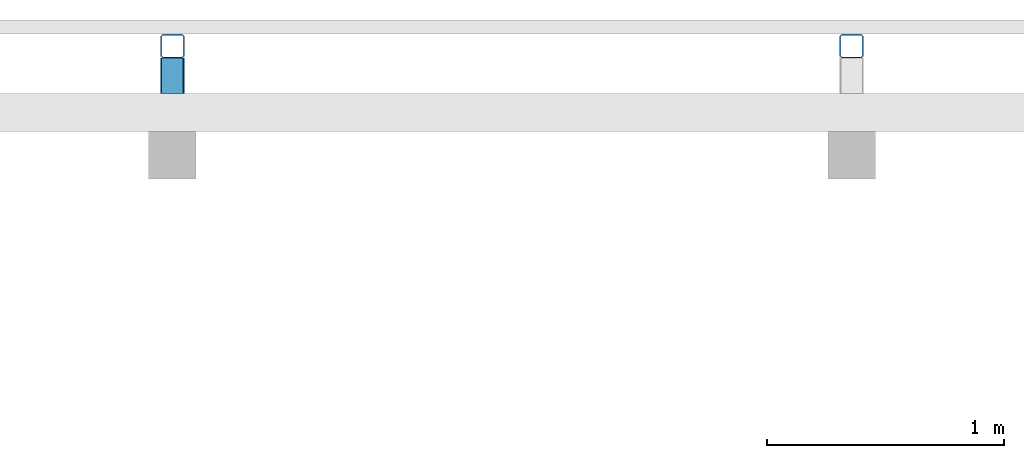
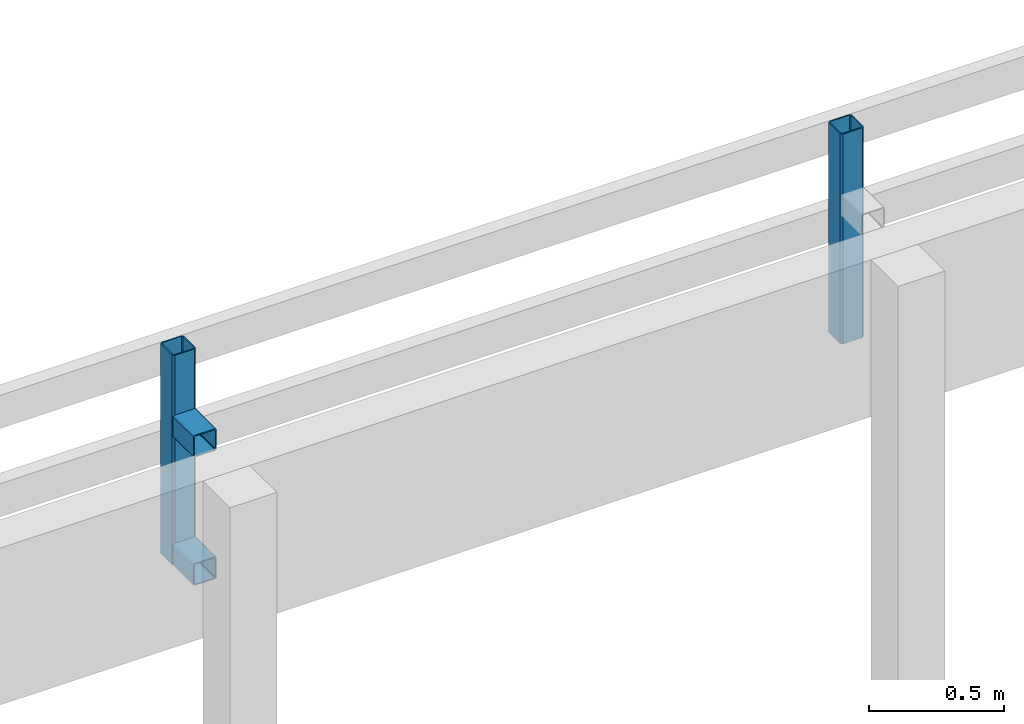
# One storey, part 28 of 42: 4 members.
"""IFC4 building model written with IfcOpenShell, lengths in metres."""

from ifc_helpers import new_model, entity, si_unit, converted_unit, derived_unit, frame, origin, place, context, subcontext, project, spatial, faceted_brep, material, element, save


model = new_model("IFC4")

# Units and contexts
model_context = context("Model", 3, precision=1e-05, world=origin())
plan_context = context("Plan", 2, precision=1e-05, world=origin())
body_context = subcontext(model_context, "Body", "Model", "MODEL_VIEW")
ifc_project = project(units=[si_unit("LENGTHUNIT", "METRE"), si_unit("AREAUNIT", "SQUARE_METRE"), si_unit("VOLUMEUNIT", "CUBIC_METRE"), si_unit("MASSUNIT", "GRAM", prefix="KILO"), converted_unit("PLANEANGLEUNIT", "DEGREE", entity("IfcPlaneAngleMeasure", 0.0174532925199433), si_unit("PLANEANGLEUNIT", "RADIAN"), dimensions=[0, 0, 0, 0, 0, 0, 0]), derived_unit("THERMALTRANSMITTANCEUNIT", [(si_unit("POWERUNIT", "WATT"), 1), (si_unit("THERMODYNAMICTEMPERATUREUNIT", "KELVIN"), -1), (si_unit("LENGTHUNIT", "METRE"), -2)]), derived_unit("VOLUMETRICFLOWRATEUNIT", [(si_unit("LENGTHUNIT", "METRE"), 3), (converted_unit("TIMEUNIT", "hour", entity("IfcTimeMeasure", 3600.0), si_unit("TIMEUNIT", "SECOND"), dimensions=[0, 0, 1, 0, 0, 0, 0]), -1), (si_unit("LENGTHUNIT", "METRE"), -1)])], contexts=[model_context, plan_context])

# Site, building, storey
site_placement = place(None, origin())
site = spatial("IfcSite", under=ifc_project, at=site_placement, Name="Site", CompositionType="ELEMENT")
building_placement = place(site_placement, origin())
building = spatial("IfcBuilding", under=site, at=building_placement, Name="Admin", CompositionType="ELEMENT")
storey_placement = place(building_placement, frame((0.0, 0.0, 6.61)))
storey = spatial("IfcBuildingStorey", under=building, at=storey_placement, Name="02-Etage2", CompositionType="ELEMENT", Elevation=6.61)

# Members
ifc_material_1 = material(Name="S235")
member_1_placement = place(storey_placement, frame((41.0598005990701, 22.4994493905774, 2.28)))
element("IfcMember", 1, at=member_1_placement, inside=storey, material=ifc_material_1, Name="Bandeau R+2", context=body_context, shape_type="Brep", body=[
    faceted_brep([(0.09, 0.005, 0.0), (0.09, 0.005, 0.95), (0.01, 0.005, 0.95), (0.01, 0.005, 0.0), (0.095, 0.01, 0.0), (0.095, 0.01, 0.95), (0.095, 0.09, 0.0), (0.095, 0.09, 0.95), (0.09, 0.095, 0.0), (0.09, 0.095, 0.95), (0.01, 0.095, 0.0), (0.01, 0.095, 0.95), (0.005, 0.09, 0.0), (0.005, 0.09, 0.95), (0.005, 0.01, 0.0), (0.005, 0.01, 0.95), (0.0, 0.0075, 0.0), (0.0, 0.0075, 0.95), (0.0075, 0.0, 0.95), (0.0075, 0.0, 0.0), (0.0, 0.0925, 0.0), (0.0, 0.0925, 0.95), (0.0075, 0.1, 0.0), (0.0075, 0.1, 0.95), (0.0925, 0.1, 0.0), (0.0925, 0.1, 0.95), (0.1, 0.0925, 0.0), (0.1, 0.0925, 0.95), (0.1, 0.0075, 0.0), (0.1, 0.0075, 0.95), (0.0925, 0.0, 0.0), (0.0925, 0.0, 0.95)], [[[0, 1, 2, 3]], [[4, 5, 1, 0]], [[6, 7, 5, 4]], [[8, 9, 7, 6]], [[10, 11, 9, 8]], [[12, 13, 11, 10]], [[14, 15, 13, 12]], [[3, 2, 15, 14]], [[16, 17, 18, 19]], [[20, 21, 17, 16]], [[22, 23, 21, 20]], [[24, 25, 23, 22]], [[26, 27, 25, 24]], [[28, 29, 27, 26]], [[30, 31, 29, 28]], [[19, 18, 31, 30]], [[18, 17, 21, 23, 25, 27, 29, 31], [2, 1, 5, 7, 9, 11, 13, 15]], [[19, 30, 28, 26, 24, 22, 20, 16], [3, 14, 12, 10, 8, 6, 4, 0]]], orient=[[False], [False], [False], [False], [False], [False], [False], [False], [False], [False], [False], [False], [False], [False], [False], [False], [False, False], [False, False]]),
])
ifc_material_2 = material(Name="S235")
member_2_placement = place(storey_placement, frame((43.9198005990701, 22.4994493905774, 2.28)))
element("IfcMember", 2, at=member_2_placement, inside=storey, material=ifc_material_2, Name="Bandeau R+2", context=body_context, shape_type="Brep", body=[
    faceted_brep([(0.09, 0.005, 0.0), (0.09, 0.005, 0.95), (0.01, 0.005, 0.95), (0.01, 0.005, 0.0), (0.095, 0.01, 0.0), (0.095, 0.01, 0.95), (0.095, 0.09, 0.0), (0.095, 0.09, 0.95), (0.09, 0.095, 0.0), (0.09, 0.095, 0.95), (0.01, 0.095, 0.0), (0.01, 0.095, 0.95), (0.005, 0.09, 0.0), (0.005, 0.09, 0.95), (0.005, 0.01, 0.0), (0.005, 0.01, 0.95), (0.0, 0.0075, 0.0), (0.0, 0.0075, 0.95), (0.0075, 0.0, 0.95), (0.0075, 0.0, 0.0), (0.0, 0.0925, 0.0), (0.0, 0.0925, 0.95), (0.0075, 0.1, 0.0), (0.0075, 0.1, 0.95), (0.0925, 0.1, 0.0), (0.0925, 0.1, 0.95), (0.1, 0.0925, 0.0), (0.1, 0.0925, 0.95), (0.1, 0.0075, 0.0), (0.1, 0.0075, 0.95), (0.0925, 0.0, 0.0), (0.0925, 0.0, 0.95)], [[[0, 1, 2, 3]], [[4, 5, 1, 0]], [[6, 7, 5, 4]], [[8, 9, 7, 6]], [[10, 11, 9, 8]], [[12, 13, 11, 10]], [[14, 15, 13, 12]], [[3, 2, 15, 14]], [[16, 17, 18, 19]], [[20, 21, 17, 16]], [[22, 23, 21, 20]], [[24, 25, 23, 22]], [[26, 27, 25, 24]], [[28, 29, 27, 26]], [[30, 31, 29, 28]], [[19, 18, 31, 30]], [[18, 17, 21, 23, 25, 27, 29, 31], [2, 1, 5, 7, 9, 11, 13, 15]], [[19, 30, 28, 26, 24, 22, 20, 16], [3, 14, 12, 10, 8, 6, 4, 0]]], orient=[[False], [False], [False], [False], [False], [False], [False], [False], [False], [False], [False], [False], [False], [False], [False], [False], [False, False], [False, False]]),
])
ifc_material_3 = material(Name="S235")
member_3_placement = place(storey_placement, frame((41.0598005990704, 22.3494493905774, 2.28)))
element("IfcMember", 3, at=member_3_placement, inside=storey, material=ifc_material_3, Name="Bandeau R+2", context=body_context, shape_type="Brep", body=[
    faceted_brep([(0.00500000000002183, 0.15, 0.09), (0.00500000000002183, 0.15, 0.01), (0.005, 1.81898940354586e-14, 0.01), (0.005, 1.81898940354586e-14, 0.09), (0.0050759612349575, 0.15, 0.0908682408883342), (0.00507596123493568, 1.81898940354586e-14, 0.0908682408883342), (0.00530153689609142, 0.15, 0.0917101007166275), (0.00530153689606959, 1.81898940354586e-14, 0.0917101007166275), (0.00566987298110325, 0.15, 0.0925), (0.00566987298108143, 1.81898940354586e-14, 0.0925), (0.00616977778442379, 0.15, 0.0932139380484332), (0.00616977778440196, 1.81898940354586e-14, 0.0932139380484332), (0.00678606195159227, 0.15, 0.0938302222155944), (0.00678606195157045, 1.81898940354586e-14, 0.0938302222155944), (0.00750000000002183, 0.15, 0.0943301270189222), (0.0075, 1.81898940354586e-14, 0.0943301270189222), (0.00828989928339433, 0.15, 0.0946984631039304), (0.00828989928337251, 1.81898940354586e-14, 0.0946984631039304), (0.00913175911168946, 0.15, 0.0949240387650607), (0.00913175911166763, 1.81898940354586e-14, 0.0949240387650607), (0.0100000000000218, 0.15, 0.095), (0.01, 1.81898940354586e-14, 0.095), (0.0900000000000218, 0.149999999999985, 0.095), (0.09, 3.63797880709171e-15, 0.095), (0.0908682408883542, 0.149999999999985, 0.0949240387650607), (0.0908682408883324, 3.63797880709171e-15, 0.0949240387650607), (0.0917101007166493, 0.149999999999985, 0.0946984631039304), (0.0917101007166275, 3.63797880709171e-15, 0.0946984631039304), (0.0925000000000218, 0.149999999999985, 0.0943301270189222), (0.0925, 3.63797880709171e-15, 0.0943301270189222), (0.0932139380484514, 0.149999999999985, 0.0938302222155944), (0.0932139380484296, 3.63797880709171e-15, 0.0938302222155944), (0.0938302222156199, 0.149999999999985, 0.0932139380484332), (0.093830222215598, 3.63797880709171e-15, 0.0932139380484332), (0.0943301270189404, 0.149999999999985, 0.0925), (0.0943301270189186, 3.63797880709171e-15, 0.0925), (0.0946984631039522, 0.149999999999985, 0.0917101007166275), (0.0946984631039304, 3.63797880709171e-15, 0.0917101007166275), (0.0949240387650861, 0.149999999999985, 0.0908682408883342), (0.0949240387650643, 3.63797880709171e-15, 0.0908682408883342), (0.0950000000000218, 0.149999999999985, 0.09), (0.095, 3.63797880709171e-15, 0.09), (0.0950000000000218, 0.149999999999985, 0.01), (0.095, 3.63797880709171e-15, 0.01), (0.0949240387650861, 0.149999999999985, 0.00913175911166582), (0.0949240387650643, 3.63797880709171e-15, 0.00913175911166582), (0.0946984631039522, 0.149999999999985, 0.00828989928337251), (0.0946984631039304, 3.63797880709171e-15, 0.00828989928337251), (0.0943301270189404, 0.149999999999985, 0.0075), (0.0943301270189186, 3.63797880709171e-15, 0.0075), (0.0938302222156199, 0.149999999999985, 0.00678606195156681), (0.093830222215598, 3.63797880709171e-15, 0.00678606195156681), (0.0932139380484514, 0.149999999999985, 0.0061697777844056), (0.0932139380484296, 3.63797880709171e-15, 0.0061697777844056), (0.0925000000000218, 0.149999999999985, 0.00566987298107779), (0.0925, 3.63797880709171e-15, 0.00566987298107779), (0.0917101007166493, 0.149999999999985, 0.00530153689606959), (0.0917101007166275, 3.63797880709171e-15, 0.00530153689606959), (0.0908682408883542, 0.149999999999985, 0.00507596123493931), (0.0908682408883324, 3.63797880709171e-15, 0.00507596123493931), (0.0900000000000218, 0.149999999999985, 0.005), (0.09, 3.63797880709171e-15, 0.005), (0.0100000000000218, 0.15, 0.005), (0.01, 1.81898940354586e-14, 0.005), (0.00913175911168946, 0.15, 0.00507596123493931), (0.00913175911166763, 1.81898940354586e-14, 0.00507596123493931), (0.00828989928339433, 0.15, 0.00530153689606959), (0.00828989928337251, 1.81898940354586e-14, 0.00530153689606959), (0.00750000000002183, 0.15, 0.00566987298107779), (0.0075, 1.81898940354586e-14, 0.00566987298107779), (0.00678606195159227, 0.15, 0.0061697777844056), (0.00678606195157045, 1.81898940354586e-14, 0.0061697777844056), (0.00616977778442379, 0.15, 0.00678606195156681), (0.00616977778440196, 1.81898940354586e-14, 0.00678606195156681), (0.00566987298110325, 0.15, 0.0075), (0.00566987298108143, 1.81898940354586e-14, 0.0075), (0.00530153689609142, 0.15, 0.00828989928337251), (0.00530153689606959, 1.81898940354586e-14, 0.00828989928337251), (0.0050759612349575, 0.15, 0.00913175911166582), (0.00507596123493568, 1.81898940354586e-14, 0.00913175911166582), (0.0925000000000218, 0.149999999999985, 0.1), (0.0938023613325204, 0.149999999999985, 0.099886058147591), (0.0938023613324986, 3.63797880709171e-15, 0.099886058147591), (0.0925, 3.63797880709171e-15, 0.1), (0.00750000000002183, 0.15, 0.1), (0.0075, 1.81898940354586e-14, 0.1), (0.00619763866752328, 0.15, 0.099886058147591), (0.00619763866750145, 1.81898940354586e-14, 0.099886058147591), (0.00493484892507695, 0.15, 0.0995476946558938), (0.00493484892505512, 1.81898940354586e-14, 0.0995476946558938), (0.00375000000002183, 0.15, 0.0989951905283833), (0.00375, 1.81898940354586e-14, 0.0989951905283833), (0.00267909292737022, 0.15, 0.0982453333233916), (0.00267909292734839, 1.81898940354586e-14, 0.0982453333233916), (0.0017546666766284, 0.15, 0.0973209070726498), (0.00175466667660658, 1.81898940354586e-14, 0.0973209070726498), (0.00100480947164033, 0.15, 0.09625), (0.0010048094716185, 1.81898940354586e-14, 0.09625), (0.000452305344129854, 0.15, 0.0950651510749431), (0.000452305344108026, 1.81898940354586e-14, 0.0950651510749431), (0.000113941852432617, 0.15, 0.0938023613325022), (0.00011394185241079, 1.81898940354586e-14, 0.0938023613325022), (1.45519152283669e-14, 0.15, 0.0925), (0.0, 1.81898940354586e-14, 0.0925), (0.000113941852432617, 0.15, 0.00619763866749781), (2.18278728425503e-14, 0.15, 0.0075), (0.0, 1.81898940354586e-14, 0.0075), (0.00011394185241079, 1.81898940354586e-14, 0.00619763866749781), (0.000452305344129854, 0.15, 0.00493484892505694), (0.000452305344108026, 1.81898940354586e-14, 0.00493484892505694), (0.00100480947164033, 0.15, 0.00375), (0.0010048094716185, 1.81898940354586e-14, 0.00375), (0.0017546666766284, 0.15, 0.00267909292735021), (0.00175466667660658, 1.81898940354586e-14, 0.00267909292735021), (0.00267909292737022, 0.15, 0.00175466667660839), (0.00267909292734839, 1.81898940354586e-14, 0.00175466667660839), (0.00375000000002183, 0.15, 0.00100480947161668), (0.00375, 1.81898940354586e-14, 0.00100480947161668), (0.00493484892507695, 0.15, 0.000452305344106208), (0.00493484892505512, 1.81898940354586e-14, 0.000452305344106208), (0.00619763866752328, 0.15, 0.000113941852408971), (0.00619763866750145, 1.81898940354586e-14, 0.000113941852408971), (0.00750000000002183, 0.15, 0.0), (0.0075, 1.81898940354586e-14, 0.0), (0.0925000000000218, 0.149999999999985, 0.0), (0.0925, 3.63797880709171e-15, 0.0), (0.0938023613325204, 0.149999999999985, 0.000113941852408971), (0.0938023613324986, 3.63797880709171e-15, 0.000113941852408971), (0.0950651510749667, 0.149999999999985, 0.000452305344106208), (0.0950651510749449, 3.63797880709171e-15, 0.000452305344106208), (0.0962500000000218, 0.149999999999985, 0.00100480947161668), (0.09625, 3.63797880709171e-15, 0.00100480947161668), (0.0973209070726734, 0.149999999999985, 0.00175466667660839), (0.0973209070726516, 3.63797880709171e-15, 0.00175466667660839), (0.0982453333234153, 0.149999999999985, 0.00267909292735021), (0.0982453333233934, 3.63797880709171e-15, 0.00267909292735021), (0.0989951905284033, 0.149999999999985, 0.00375), (0.0989951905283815, 3.63797880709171e-15, 0.00375), (0.0995476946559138, 0.149999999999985, 0.00493484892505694), (0.099547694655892, 3.63797880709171e-15, 0.00493484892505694), (0.099886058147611, 0.149999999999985, 0.00619763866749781), (0.0998860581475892, 3.63797880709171e-15, 0.00619763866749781), (0.100000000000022, 0.15, 0.0075), (0.1, 3.63797880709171e-15, 0.0075), (0.099886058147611, 0.149999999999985, 0.0938023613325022), (0.100000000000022, 0.15, 0.0925), (0.1, 3.63797880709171e-15, 0.0925), (0.0998860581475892, 3.63797880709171e-15, 0.0938023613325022), (0.0995476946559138, 0.149999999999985, 0.0950651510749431), (0.099547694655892, 3.63797880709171e-15, 0.0950651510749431), (0.0989951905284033, 0.149999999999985, 0.09625), (0.0989951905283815, 3.63797880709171e-15, 0.09625), (0.0982453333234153, 0.149999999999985, 0.0973209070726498), (0.0982453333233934, 3.63797880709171e-15, 0.0973209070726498), (0.0973209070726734, 0.149999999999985, 0.0982453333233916), (0.0973209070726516, 3.63797880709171e-15, 0.0982453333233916), (0.0962500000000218, 0.149999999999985, 0.0989951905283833), (0.09625, 3.63797880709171e-15, 0.0989951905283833), (0.0950651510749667, 0.149999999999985, 0.0995476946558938), (0.0950651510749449, 3.63797880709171e-15, 0.0995476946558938)], [[[0, 1, 2, 3]], [[4, 0, 3, 5]], [[6, 4, 5, 7]], [[8, 6, 7, 9]], [[10, 8, 9, 11]], [[12, 10, 11, 13]], [[14, 12, 13, 15]], [[16, 14, 15, 17]], [[18, 16, 17, 19]], [[20, 18, 19, 21]], [[22, 20, 21, 23]], [[24, 22, 23, 25]], [[26, 24, 25, 27]], [[28, 26, 27, 29]], [[30, 28, 29, 31]], [[32, 30, 31, 33]], [[34, 32, 33, 35]], [[36, 34, 35, 37]], [[38, 36, 37, 39]], [[40, 38, 39, 41]], [[42, 40, 41, 43]], [[44, 42, 43, 45]], [[46, 44, 45, 47]], [[48, 46, 47, 49]], [[50, 48, 49, 51]], [[52, 50, 51, 53]], [[54, 52, 53, 55]], [[56, 54, 55, 57]], [[58, 56, 57, 59]], [[60, 58, 59, 61]], [[62, 60, 61, 63]], [[64, 62, 63, 65]], [[66, 64, 65, 67]], [[68, 66, 67, 69]], [[70, 68, 69, 71]], [[72, 70, 71, 73]], [[74, 72, 73, 75]], [[76, 74, 75, 77]], [[78, 76, 77, 79]], [[1, 78, 79, 2]], [[80, 81, 82, 83]], [[84, 80, 83, 85]], [[86, 84, 85, 87]], [[88, 86, 87, 89]], [[90, 88, 89, 91]], [[92, 90, 91, 93]], [[94, 92, 93, 95]], [[96, 94, 95, 97]], [[98, 96, 97, 99]], [[100, 98, 99, 101]], [[102, 100, 101, 103]], [[104, 105, 106, 107]], [[108, 104, 107, 109]], [[110, 108, 109, 111]], [[112, 110, 111, 113]], [[114, 112, 113, 115]], [[116, 114, 115, 117]], [[118, 116, 117, 119]], [[120, 118, 119, 121]], [[122, 120, 121, 123]], [[124, 122, 123, 125]], [[126, 124, 125, 127]], [[128, 126, 127, 129]], [[130, 128, 129, 131]], [[132, 130, 131, 133]], [[134, 132, 133, 135]], [[136, 134, 135, 137]], [[138, 136, 137, 139]], [[140, 138, 139, 141]], [[142, 140, 141, 143]], [[144, 145, 146, 147]], [[148, 144, 147, 149]], [[150, 148, 149, 151]], [[152, 150, 151, 153]], [[154, 152, 153, 155]], [[156, 154, 155, 157]], [[158, 156, 157, 159]], [[81, 158, 159, 82]], [[146, 143, 141, 139, 137, 135, 133, 131, 129, 127, 125, 123, 121, 119, 117, 115, 113, 111, 109, 107, 106, 103, 101, 99, 97, 95, 93, 91, 89, 87, 85, 83, 82, 159, 157, 155, 153, 151, 149, 147], [2, 79, 77, 75, 73, 71, 69, 67, 65, 63, 61, 59, 57, 55, 53, 51, 49, 47, 45, 43, 41, 39, 37, 35, 33, 31, 29, 27, 25, 23, 21, 19, 17, 15, 13, 11, 9, 7, 5, 3]], [[103, 106, 105, 102]], [[102, 105, 104, 108, 110, 112, 114, 116, 118, 120, 122, 124, 126, 128, 130, 132, 134, 136, 138, 140, 142, 145, 144, 148, 150, 152, 154, 156, 158, 81, 80, 84, 86, 88, 90, 92, 94, 96, 98, 100], [1, 0, 4, 6, 8, 10, 12, 14, 16, 18, 20, 22, 24, 26, 28, 30, 32, 34, 36, 38, 40, 42, 44, 46, 48, 50, 52, 54, 56, 58, 60, 62, 64, 66, 68, 70, 72, 74, 76, 78]], [[145, 142, 143, 146]]], orient=[[False], [False], [False], [False], [False], [False], [False], [False], [False], [False], [False], [False], [False], [False], [False], [False], [False], [False], [False], [False], [False], [False], [False], [False], [False], [False], [False], [False], [False], [False], [False], [False], [False], [False], [False], [False], [False], [False], [False], [False], [False], [False], [False], [False], [False], [False], [False], [False], [False], [False], [False], [False], [False], [False], [False], [False], [False], [False], [False], [False], [False], [False], [False], [False], [False], [False], [False], [False], [False], [False], [False], [False], [False], [False], [False], [False], [False], [False], [False, False], [False], [False, False], [False]]),
])
ifc_material_4 = material(Name="S235")
member_4_placement = place(storey_placement, frame((41.0598005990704, 22.3494493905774, 2.86)))
element("IfcMember", 4, at=member_4_placement, inside=storey, material=ifc_material_4, Name="Bandeau R+2", context=body_context, shape_type="Brep", body=[
    faceted_brep([(0.00500000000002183, 0.149999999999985, 0.09), (0.00500000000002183, 0.149999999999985, 0.01), (0.005, 1.09139364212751e-14, 0.01), (0.005, 1.09139364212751e-14, 0.09), (0.0050759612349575, 0.149999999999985, 0.0908682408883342), (0.00507596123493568, 1.09139364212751e-14, 0.0908682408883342), (0.00530153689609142, 0.149999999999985, 0.0917101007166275), (0.00530153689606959, 1.09139364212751e-14, 0.0917101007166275), (0.00566987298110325, 0.149999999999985, 0.0925), (0.00566987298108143, 1.09139364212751e-14, 0.0925), (0.00616977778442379, 0.149999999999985, 0.0932139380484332), (0.00616977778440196, 1.09139364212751e-14, 0.0932139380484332), (0.00678606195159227, 0.149999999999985, 0.0938302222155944), (0.00678606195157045, 1.09139364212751e-14, 0.0938302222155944), (0.00750000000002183, 0.149999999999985, 0.0943301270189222), (0.0075, 1.09139364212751e-14, 0.0943301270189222), (0.00828989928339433, 0.149999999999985, 0.0946984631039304), (0.00828989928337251, 1.09139364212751e-14, 0.0946984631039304), (0.00913175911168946, 0.149999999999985, 0.0949240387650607), (0.00913175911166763, 1.09139364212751e-14, 0.0949240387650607), (0.0100000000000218, 0.149999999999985, 0.095), (0.01, 1.09139364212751e-14, 0.095), (0.0900000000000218, 0.149999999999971, 0.095), (0.09, -3.63797880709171e-15, 0.095), (0.0908682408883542, 0.149999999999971, 0.0949240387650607), (0.0908682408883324, -3.63797880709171e-15, 0.0949240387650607), (0.0917101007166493, 0.149999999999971, 0.0946984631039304), (0.0917101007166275, -3.63797880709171e-15, 0.0946984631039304), (0.0925000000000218, 0.149999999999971, 0.0943301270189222), (0.0925, -3.63797880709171e-15, 0.0943301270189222), (0.0932139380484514, 0.149999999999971, 0.0938302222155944), (0.0932139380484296, -3.63797880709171e-15, 0.0938302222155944), (0.0938302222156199, 0.149999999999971, 0.0932139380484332), (0.093830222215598, -3.63797880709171e-15, 0.0932139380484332), (0.0943301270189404, 0.149999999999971, 0.0925), (0.0943301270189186, -3.63797880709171e-15, 0.0925), (0.0946984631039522, 0.149999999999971, 0.0917101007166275), (0.0946984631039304, -3.63797880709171e-15, 0.0917101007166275), (0.0949240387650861, 0.149999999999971, 0.0908682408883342), (0.0949240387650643, -3.63797880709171e-15, 0.0908682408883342), (0.0950000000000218, 0.149999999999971, 0.09), (0.095, -3.63797880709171e-15, 0.09), (0.0950000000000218, 0.149999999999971, 0.01), (0.095, -3.63797880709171e-15, 0.01), (0.0949240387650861, 0.149999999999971, 0.00913175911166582), (0.0949240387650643, -3.63797880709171e-15, 0.00913175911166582), (0.0946984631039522, 0.149999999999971, 0.00828989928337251), (0.0946984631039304, -3.63797880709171e-15, 0.00828989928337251), (0.0943301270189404, 0.149999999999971, 0.0075), (0.0943301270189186, -3.63797880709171e-15, 0.0075), (0.0938302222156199, 0.149999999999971, 0.00678606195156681), (0.093830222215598, -3.63797880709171e-15, 0.00678606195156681), (0.0932139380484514, 0.149999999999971, 0.0061697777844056), (0.0932139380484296, -3.63797880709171e-15, 0.0061697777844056), (0.0925000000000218, 0.149999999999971, 0.00566987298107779), (0.0925, -3.63797880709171e-15, 0.00566987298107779), (0.0917101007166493, 0.149999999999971, 0.00530153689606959), (0.0917101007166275, -3.63797880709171e-15, 0.00530153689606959), (0.0908682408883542, 0.149999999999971, 0.00507596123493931), (0.0908682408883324, -3.63797880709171e-15, 0.00507596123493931), (0.0900000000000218, 0.149999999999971, 0.005), (0.09, -3.63797880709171e-15, 0.005), (0.0100000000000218, 0.149999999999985, 0.005), (0.01, 1.09139364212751e-14, 0.005), (0.00913175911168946, 0.149999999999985, 0.00507596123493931), (0.00913175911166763, 1.09139364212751e-14, 0.00507596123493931), (0.00828989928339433, 0.149999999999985, 0.00530153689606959), (0.00828989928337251, 1.09139364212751e-14, 0.00530153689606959), (0.00750000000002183, 0.149999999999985, 0.00566987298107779), (0.0075, 1.09139364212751e-14, 0.00566987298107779), (0.00678606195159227, 0.149999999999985, 0.0061697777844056), (0.00678606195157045, 1.09139364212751e-14, 0.0061697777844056), (0.00616977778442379, 0.149999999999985, 0.00678606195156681), (0.00616977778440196, 1.09139364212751e-14, 0.00678606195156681), (0.00566987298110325, 0.149999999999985, 0.0075), (0.00566987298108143, 1.09139364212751e-14, 0.0075), (0.00530153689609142, 0.149999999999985, 0.00828989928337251), (0.00530153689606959, 1.09139364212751e-14, 0.00828989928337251), (0.0050759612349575, 0.149999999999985, 0.00913175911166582), (0.00507596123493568, 1.09139364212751e-14, 0.00913175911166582), (0.0925000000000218, 0.149999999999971, 0.1), (0.0938023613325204, 0.149999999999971, 0.099886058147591), (0.0938023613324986, -3.63797880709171e-15, 0.099886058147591), (0.0925, -3.63797880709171e-15, 0.1), (0.00750000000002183, 0.149999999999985, 0.1), (0.0075, 1.09139364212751e-14, 0.1), (0.00619763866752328, 0.149999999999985, 0.099886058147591), (0.00619763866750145, 1.09139364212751e-14, 0.099886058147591), (0.00493484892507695, 0.149999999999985, 0.0995476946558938), (0.00493484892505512, 1.09139364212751e-14, 0.0995476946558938), (0.00375000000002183, 0.149999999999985, 0.0989951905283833), (0.00375, 1.09139364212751e-14, 0.0989951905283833), (0.00267909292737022, 0.149999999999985, 0.0982453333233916), (0.00267909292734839, 1.09139364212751e-14, 0.0982453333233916), (0.0017546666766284, 0.149999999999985, 0.0973209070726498), (0.00175466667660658, 1.09139364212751e-14, 0.0973209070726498), (0.00100480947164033, 0.149999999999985, 0.09625), (0.0010048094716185, 1.09139364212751e-14, 0.09625), (0.000452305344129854, 0.149999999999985, 0.0950651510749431), (0.000452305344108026, 1.09139364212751e-14, 0.0950651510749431), (0.000113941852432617, 0.149999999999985, 0.0938023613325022), (0.00011394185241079, 1.09139364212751e-14, 0.0938023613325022), (1.45519152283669e-14, 0.149999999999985, 0.0925), (0.0, 1.09139364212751e-14, 0.0925), (0.000113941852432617, 0.149999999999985, 0.00619763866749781), (2.18278728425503e-14, 0.149999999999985, 0.0075), (0.0, 1.09139364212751e-14, 0.0075), (0.00011394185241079, 1.09139364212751e-14, 0.00619763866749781), (0.000452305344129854, 0.149999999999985, 0.00493484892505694), (0.000452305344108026, 1.09139364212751e-14, 0.00493484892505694), (0.00100480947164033, 0.149999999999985, 0.00375), (0.0010048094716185, 1.09139364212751e-14, 0.00375), (0.0017546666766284, 0.149999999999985, 0.00267909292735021), (0.00175466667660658, 1.09139364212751e-14, 0.00267909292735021), (0.00267909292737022, 0.149999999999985, 0.00175466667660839), (0.00267909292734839, 1.09139364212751e-14, 0.00175466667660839), (0.00375000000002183, 0.149999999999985, 0.00100480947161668), (0.00375, 1.09139364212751e-14, 0.00100480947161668), (0.00493484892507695, 0.149999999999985, 0.000452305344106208), (0.00493484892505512, 1.09139364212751e-14, 0.000452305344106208), (0.00619763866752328, 0.149999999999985, 0.000113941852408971), (0.00619763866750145, 1.09139364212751e-14, 0.000113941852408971), (0.00750000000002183, 0.149999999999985, 0.0), (0.0075, 1.09139364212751e-14, 0.0), (0.0925000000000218, 0.149999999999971, 0.0), (0.0925, -3.63797880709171e-15, 0.0), (0.0938023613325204, 0.149999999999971, 0.000113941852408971), (0.0938023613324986, -3.63797880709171e-15, 0.000113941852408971), (0.0950651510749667, 0.149999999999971, 0.000452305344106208), (0.0950651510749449, -3.63797880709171e-15, 0.000452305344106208), (0.0962500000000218, 0.149999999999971, 0.00100480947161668), (0.09625, -3.63797880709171e-15, 0.00100480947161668), (0.0973209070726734, 0.149999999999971, 0.00175466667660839), (0.0973209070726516, -3.63797880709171e-15, 0.00175466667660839), (0.0982453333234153, 0.149999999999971, 0.00267909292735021), (0.0982453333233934, -3.63797880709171e-15, 0.00267909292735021), (0.0989951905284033, 0.149999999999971, 0.00375), (0.0989951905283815, -3.63797880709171e-15, 0.00375), (0.0995476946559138, 0.149999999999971, 0.00493484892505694), (0.099547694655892, -3.63797880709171e-15, 0.00493484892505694), (0.099886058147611, 0.149999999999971, 0.00619763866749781), (0.0998860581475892, -3.63797880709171e-15, 0.00619763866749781), (0.100000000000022, 0.149999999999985, 0.0075), (0.1, -3.63797880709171e-15, 0.0075), (0.099886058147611, 0.149999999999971, 0.0938023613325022), (0.100000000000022, 0.149999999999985, 0.0925), (0.1, -3.63797880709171e-15, 0.0925), (0.0998860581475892, -3.63797880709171e-15, 0.0938023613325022), (0.0995476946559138, 0.149999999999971, 0.0950651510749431), (0.099547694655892, -3.63797880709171e-15, 0.0950651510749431), (0.0989951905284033, 0.149999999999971, 0.09625), (0.0989951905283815, -3.63797880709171e-15, 0.09625), (0.0982453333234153, 0.149999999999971, 0.0973209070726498), (0.0982453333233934, -3.63797880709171e-15, 0.0973209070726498), (0.0973209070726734, 0.149999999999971, 0.0982453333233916), (0.0973209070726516, -3.63797880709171e-15, 0.0982453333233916), (0.0962500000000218, 0.149999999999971, 0.0989951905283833), (0.09625, -3.63797880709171e-15, 0.0989951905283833), (0.0950651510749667, 0.149999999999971, 0.0995476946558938), (0.0950651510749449, -3.63797880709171e-15, 0.0995476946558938)], [[[0, 1, 2, 3]], [[4, 0, 3, 5]], [[6, 4, 5, 7]], [[8, 6, 7, 9]], [[10, 8, 9, 11]], [[12, 10, 11, 13]], [[14, 12, 13, 15]], [[16, 14, 15, 17]], [[18, 16, 17, 19]], [[20, 18, 19, 21]], [[22, 20, 21, 23]], [[24, 22, 23, 25]], [[26, 24, 25, 27]], [[28, 26, 27, 29]], [[30, 28, 29, 31]], [[32, 30, 31, 33]], [[34, 32, 33, 35]], [[36, 34, 35, 37]], [[38, 36, 37, 39]], [[40, 38, 39, 41]], [[42, 40, 41, 43]], [[44, 42, 43, 45]], [[46, 44, 45, 47]], [[48, 46, 47, 49]], [[50, 48, 49, 51]], [[52, 50, 51, 53]], [[54, 52, 53, 55]], [[56, 54, 55, 57]], [[58, 56, 57, 59]], [[60, 58, 59, 61]], [[62, 60, 61, 63]], [[64, 62, 63, 65]], [[66, 64, 65, 67]], [[68, 66, 67, 69]], [[70, 68, 69, 71]], [[72, 70, 71, 73]], [[74, 72, 73, 75]], [[76, 74, 75, 77]], [[78, 76, 77, 79]], [[1, 78, 79, 2]], [[80, 81, 82, 83]], [[84, 80, 83, 85]], [[86, 84, 85, 87]], [[88, 86, 87, 89]], [[90, 88, 89, 91]], [[92, 90, 91, 93]], [[94, 92, 93, 95]], [[96, 94, 95, 97]], [[98, 96, 97, 99]], [[100, 98, 99, 101]], [[102, 100, 101, 103]], [[104, 105, 106, 107]], [[108, 104, 107, 109]], [[110, 108, 109, 111]], [[112, 110, 111, 113]], [[114, 112, 113, 115]], [[116, 114, 115, 117]], [[118, 116, 117, 119]], [[120, 118, 119, 121]], [[122, 120, 121, 123]], [[124, 122, 123, 125]], [[126, 124, 125, 127]], [[128, 126, 127, 129]], [[130, 128, 129, 131]], [[132, 130, 131, 133]], [[134, 132, 133, 135]], [[136, 134, 135, 137]], [[138, 136, 137, 139]], [[140, 138, 139, 141]], [[142, 140, 141, 143]], [[144, 145, 146, 147]], [[148, 144, 147, 149]], [[150, 148, 149, 151]], [[152, 150, 151, 153]], [[154, 152, 153, 155]], [[156, 154, 155, 157]], [[158, 156, 157, 159]], [[81, 158, 159, 82]], [[146, 143, 141, 139, 137, 135, 133, 131, 129, 127, 125, 123, 121, 119, 117, 115, 113, 111, 109, 107, 106, 103, 101, 99, 97, 95, 93, 91, 89, 87, 85, 83, 82, 159, 157, 155, 153, 151, 149, 147], [2, 79, 77, 75, 73, 71, 69, 67, 65, 63, 61, 59, 57, 55, 53, 51, 49, 47, 45, 43, 41, 39, 37, 35, 33, 31, 29, 27, 25, 23, 21, 19, 17, 15, 13, 11, 9, 7, 5, 3]], [[103, 106, 105, 102]], [[102, 105, 104, 108, 110, 112, 114, 116, 118, 120, 122, 124, 126, 128, 130, 132, 134, 136, 138, 140, 142, 145, 144, 148, 150, 152, 154, 156, 158, 81, 80, 84, 86, 88, 90, 92, 94, 96, 98, 100], [1, 0, 4, 6, 8, 10, 12, 14, 16, 18, 20, 22, 24, 26, 28, 30, 32, 34, 36, 38, 40, 42, 44, 46, 48, 50, 52, 54, 56, 58, 60, 62, 64, 66, 68, 70, 72, 74, 76, 78]], [[145, 142, 143, 146]]], orient=[[False], [False], [False], [False], [False], [False], [False], [False], [False], [False], [False], [False], [False], [False], [False], [False], [False], [False], [False], [False], [False], [False], [False], [False], [False], [False], [False], [False], [False], [False], [False], [False], [False], [False], [False], [False], [False], [False], [False], [False], [False], [False], [False], [False], [False], [False], [False], [False], [False], [False], [False], [False], [False], [False], [False], [False], [False], [False], [False], [False], [False], [False], [False], [False], [False], [False], [False], [False], [False], [False], [False], [False], [False], [False], [False], [False], [False], [False], [False, False], [False], [False, False], [False]]),
])

save(model, "model.ifc")
